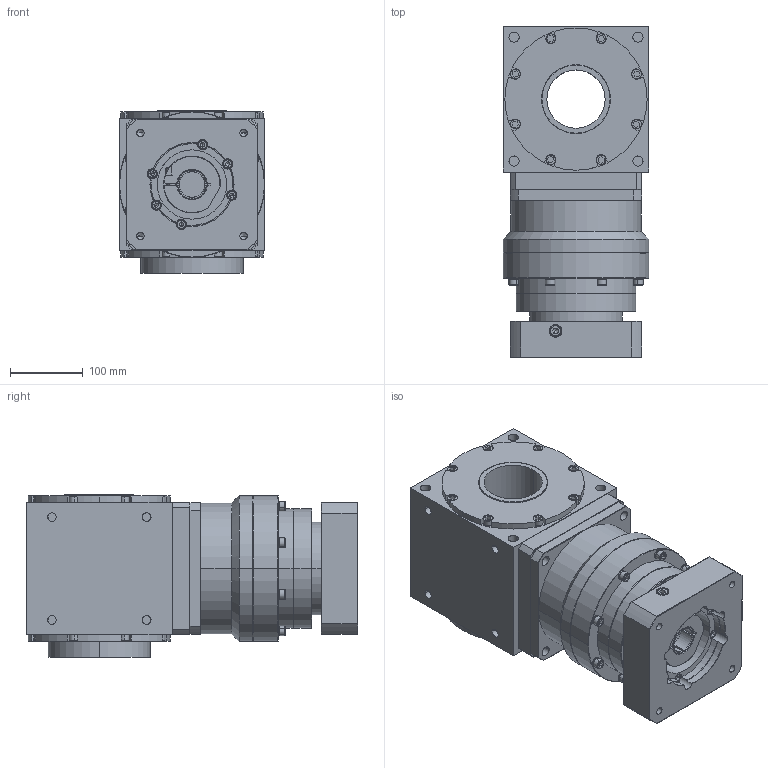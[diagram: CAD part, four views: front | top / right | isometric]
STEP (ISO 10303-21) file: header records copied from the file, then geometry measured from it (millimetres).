
FILE_DESCRIPTION (( 'STEP AP203' ), '1' );
FILE_NAME ('AAW200AS-L2-RF 35-114.3-200-M12.STEP', '2024-12-24T09:06:06', ( '' ), ( '' ), 'SwSTEP 2.0', 'SolidWorks 2021', '' );
FILE_SCHEMA (( 'CONFIG_CONTROL_DESIGN' ));
Length unit declared in the file: millimetre
Products named in the file (3): KS180L2-114.3-35-83-M12-200俋倛芞; AAW200AS-RF; AAW200AS-L2-RF 35-114.3-200-M12
Assembly tree (2 placements, depth 2):
  AAW200AS-L2-RF 35-114.3-200-M12
    AAW200AS-RF
    KS180L2-114.3-35-83-M12-200俋倛芞
Bounding box: 200 x 454.5 x 222.5 mm (x, y, z)
Volume: 13478366.9 mm3; surface area: 832752.2 mm2
Topology: 45 solids, 45 shells, 1431 faces, 3440 edges, 2140 vertices
Faces by surface type: plane 685, cylinder 514, cone 192, bspline 38, torus 2
Entity records: 42103 total; most frequent: CARTESIAN_POINT 8334, DIRECTION 7330, ORIENTED_EDGE 6712, EDGE_CURVE 3356, AXIS2_PLACEMENT_3D 2792, VERTEX_POINT 2140, VECTOR 1746, LINE 1746
